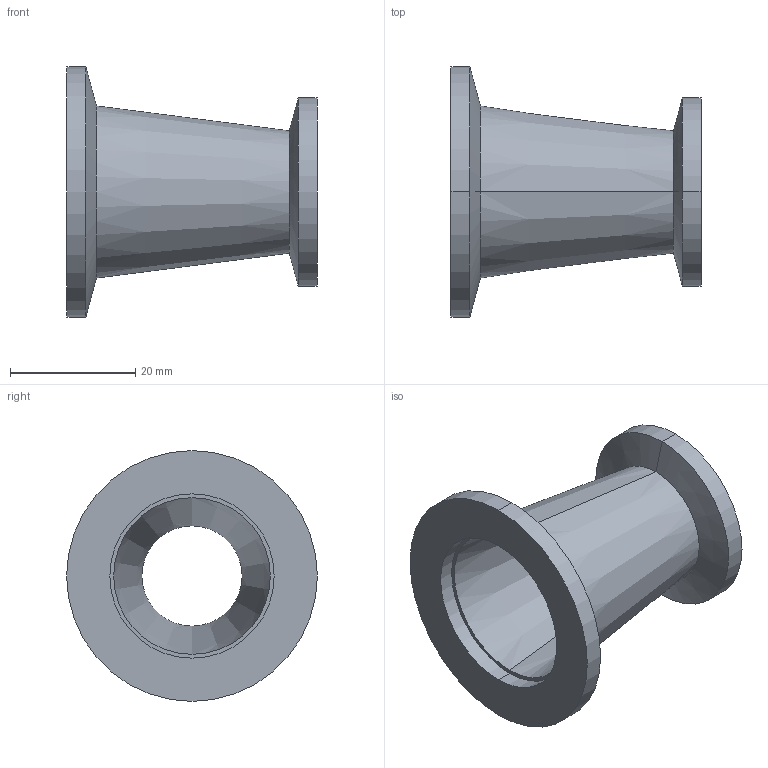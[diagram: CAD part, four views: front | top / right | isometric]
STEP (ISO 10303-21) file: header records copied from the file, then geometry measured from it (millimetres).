
FILE_DESCRIPTION (( 'STEP AP203' ), '1' );
FILE_NAME ('KF曹噤眻籵.STEP', '2026-07-20T11:40:40', ( '' ), ( '' ), 'SwSTEP 2.0', 'SolidWorks 2024', '' );
FILE_SCHEMA (( 'CONFIG_CONTROL_DESIGN' ));
Length unit declared in the file: millimetre
Products named in the file (1): KF变径直通
Bounding box: 39.9 x 40 x 40 mm (x, y, z)
Volume: 7943.3 mm3; surface area: 7941.1 mm2
Topology: 1 solids, 1 shells, 20 faces, 40 edges, 24 vertices
Faces by surface type: cone 8, cylinder 8, plane 4
Entity records: 605 total; most frequent: DIRECTION 106, CARTESIAN_POINT 85, ORIENTED_EDGE 80, AXIS2_PLACEMENT_3D 45, EDGE_CURVE 40, VERTEX_POINT 24, EDGE_LOOP 24, CIRCLE 24
